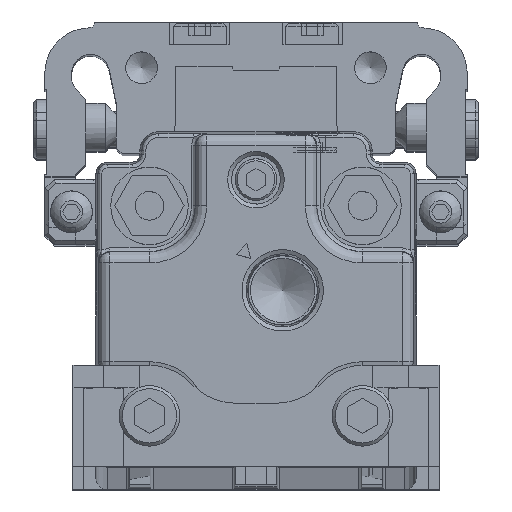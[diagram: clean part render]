
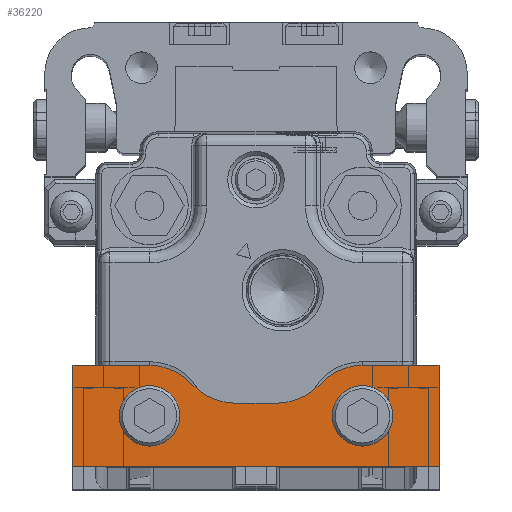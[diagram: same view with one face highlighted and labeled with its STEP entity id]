
A CAD part, top view. The second image highlights one B-rep face of the part: STEP entity #36220.
In plain terms, the highlighted planar face has unit normal (0, 0, 1).
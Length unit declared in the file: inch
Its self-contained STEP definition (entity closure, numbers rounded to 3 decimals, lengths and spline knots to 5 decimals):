
#902 = FACE_OUTER_BOUND ( 'NONE', #12878, .T. ) ;
#923 = LINE ( 'NONE', #12860, #24601 ) ;
#1010 = ORIENTED_EDGE ( 'NONE', *, *, #17296, .T. ) ;
#1210 = VECTOR ( 'NONE', #20337, 39.37008 ) ;
#1715 = LINE ( 'NONE', #29400, #1210 ) ;
#2411 = EDGE_LOOP ( 'NONE', ( #25648 ) ) ;
#2687 = VECTOR ( 'NONE', #23191, 39.37008 ) ;
#2891 = ORIENTED_EDGE ( 'NONE', *, *, #11499, .T. ) ;
#3007 = AXIS2_PLACEMENT_3D ( 'NONE', #25740, #21994, #19640 ) ;
#3736 = ORIENTED_EDGE ( 'NONE', *, *, #19722, .T. ) ;
#3830 = FACE_BOUND ( 'NONE', #2411, .T. ) ;
#3899 = CARTESIAN_POINT ( 'NONE',  ( -0.94488, 0.5248, 0.5 ) ) ;
#4081 = DIRECTION ( 'NONE',  ( -1., 0., 0. ) ) ;
#4363 = CIRCLE ( 'NONE', #30715, 0.3125 ) ;
#4406 = LINE ( 'NONE', #36656, #34452 ) ;
#4855 = ORIENTED_EDGE ( 'NONE', *, *, #34905, .T. ) ;
#4888 = CIRCLE ( 'NONE', #3007, 0.15625 ) ;
#5229 = VERTEX_POINT ( 'NONE', #7597 ) ;
#6222 = AXIS2_PLACEMENT_3D ( 'NONE', #8276, #26136, #8842 ) ;
#6606 = DIRECTION ( 'NONE',  ( 1., 0., 0. ) ) ;
#6795 = CARTESIAN_POINT ( 'NONE',  ( -0.3937, 0.32795, 0.5 ) ) ;
#7433 = DIRECTION ( 'NONE',  ( 0., 0., -1. ) ) ;
#7597 = CARTESIAN_POINT ( 'NONE',  ( -0.5587, 0.5248, 0.5 ) ) ;
#8005 = CARTESIAN_POINT ( 'NONE',  ( -0.94488, 0., 0.5 ) ) ;
#8276 = CARTESIAN_POINT ( 'NONE',  ( 0.10339, 0.64045, 0.5 ) ) ;
#8842 = DIRECTION ( 'NONE',  ( -1., 0., 0. ) ) ;
#9555 = VECTOR ( 'NONE', #6606, 39.37008 ) ;
#9929 = DIRECTION ( 'NONE',  ( -1., 0., 0. ) ) ;
#9964 = CIRCLE ( 'NONE', #6222, 0.3125 ) ;
#10109 = CIRCLE ( 'NONE', #32121, 0.3125 ) ;
#10809 = VECTOR ( 'NONE', #36849, 39.37008 ) ;
#11499 = EDGE_CURVE ( 'NONE', #16122, #33743, #19647, .T. ) ;
#12113 = CARTESIAN_POINT ( 'NONE',  ( -0.33105, 0.42638, 0.5 ) ) ;
#12222 = ORIENTED_EDGE ( 'NONE', *, *, #36746, .T. ) ;
#12308 = CARTESIAN_POINT ( 'NONE',  ( -0.55, 0.41865, 0.5 ) ) ;
#12860 = CARTESIAN_POINT ( 'NONE',  ( -0.94488, 0.5248, 0.5 ) ) ;
#12878 = EDGE_LOOP ( 'NONE', ( #2891, #30373, #37250, #32249, #27456, #26866, #12222, #38474, #4855, #3736 ) ) ;
#13168 = DIRECTION ( 'NONE',  ( 0., 0., 1. ) ) ;
#14345 = DIRECTION ( 'NONE',  ( -1., 0., 0. ) ) ;
#14497 = CARTESIAN_POINT ( 'NONE',  ( -0.55, 0.2624, 0.5 ) ) ;
#15167 = VERTEX_POINT ( 'NONE', #19479 ) ;
#15817 = VERTEX_POINT ( 'NONE', #27047 ) ;
#16043 = DIRECTION ( 'NONE',  ( -1., 0., 0. ) ) ;
#16122 = VERTEX_POINT ( 'NONE', #35877 ) ;
#17296 = EDGE_CURVE ( 'NONE', #15817, #15817, #4888, .T. ) ;
#17446 = CIRCLE ( 'NONE', #30638, 0.15625 ) ;
#17968 = EDGE_CURVE ( 'NONE', #33166, #33166, #17446, .T. ) ;
#18239 = EDGE_CURVE ( 'NONE', #15167, #24406, #1715, .T. ) ;
#18978 = CARTESIAN_POINT ( 'NONE',  ( -0.5587, 0.2123, 0.5 ) ) ;
#19479 = CARTESIAN_POINT ( 'NONE',  ( -0.94488, 0.5248, 0.5 ) ) ;
#19507 = CARTESIAN_POINT ( 'NONE',  ( -0.94488, 0., 0.5 ) ) ;
#19569 = VERTEX_POINT ( 'NONE', #26243 ) ;
#19640 = DIRECTION ( 'NONE',  ( -1., 0., 0. ) ) ;
#19647 = LINE ( 'NONE', #34624, #2687 ) ;
#19722 = EDGE_CURVE ( 'NONE', #33850, #16122, #4406, .T. ) ;
#20337 = DIRECTION ( 'NONE',  ( 0., -1., 0. ) ) ;
#20809 = CARTESIAN_POINT ( 'NONE',  ( 0.94488, 0., 0.5 ) ) ;
#20928 = EDGE_CURVE ( 'NONE', #33743, #24537, #10109, .T. ) ;
#21171 = EDGE_CURVE ( 'NONE', #24537, #26366, #9964, .T. ) ;
#21994 = DIRECTION ( 'NONE',  ( 0., 0., -1. ) ) ;
#22793 = DIRECTION ( 'NONE',  ( -1., 0., 0. ) ) ;
#23191 = DIRECTION ( 'NONE',  ( -1., 0., 0. ) ) ;
#24406 = VERTEX_POINT ( 'NONE', #8005 ) ;
#24537 = VERTEX_POINT ( 'NONE', #33519 ) ;
#24601 = VECTOR ( 'NONE', #9929, 39.37008 ) ;
#24820 = PLANE ( 'NONE',  #28355 ) ;
#24948 = CARTESIAN_POINT ( 'NONE',  ( 0.5587, 0.2123, 0.5 ) ) ;
#25237 = LINE ( 'NONE', #6795, #9555 ) ;
#25542 = DIRECTION ( 'NONE',  ( 0., 0., -1. ) ) ;
#25648 = ORIENTED_EDGE ( 'NONE', *, *, #17968, .T. ) ;
#25740 = CARTESIAN_POINT ( 'NONE',  ( 0.55, 0.2624, 0.5 ) ) ;
#25937 = CARTESIAN_POINT ( 'NONE',  ( -0.10339, 0.64045, 0.5 ) ) ;
#26136 = DIRECTION ( 'NONE',  ( 0., 0., -1. ) ) ;
#26228 = CIRCLE ( 'NONE', #36288, 0.3125 ) ;
#26243 = CARTESIAN_POINT ( 'NONE',  ( -0.10339, 0.32795, 0.5 ) ) ;
#26366 = VERTEX_POINT ( 'NONE', #26981 ) ;
#26473 = DIRECTION ( 'NONE',  ( 0., 0., -1. ) ) ;
#26866 = ORIENTED_EDGE ( 'NONE', *, *, #32065, .T. ) ;
#26981 = CARTESIAN_POINT ( 'NONE',  ( 0.10339, 0.32795, 0.5 ) ) ;
#27047 = CARTESIAN_POINT ( 'NONE',  ( 0.39375, 0.2624, 0.5 ) ) ;
#27456 = ORIENTED_EDGE ( 'NONE', *, *, #28248, .T. ) ;
#27506 = VERTEX_POINT ( 'NONE', #12113 ) ;
#27778 = FACE_BOUND ( 'NONE', #33428, .T. ) ;
#28168 = DIRECTION ( 'NONE',  ( 0., 1., 0. ) ) ;
#28248 = EDGE_CURVE ( 'NONE', #19569, #27506, #26228, .T. ) ;
#28355 = AXIS2_PLACEMENT_3D ( 'NONE', #3899, #7433, #16043 ) ;
#29400 = CARTESIAN_POINT ( 'NONE',  ( -0.94488, 0., 0.5 ) ) ;
#30373 = ORIENTED_EDGE ( 'NONE', *, *, #20928, .T. ) ;
#30638 = AXIS2_PLACEMENT_3D ( 'NONE', #14497, #26473, #35549 ) ;
#30715 = AXIS2_PLACEMENT_3D ( 'NONE', #18978, #30998, #4081 ) ;
#30928 = LINE ( 'NONE', #19507, #10809 ) ;
#30998 = DIRECTION ( 'NONE',  ( 0., 0., 1. ) ) ;
#32065 = EDGE_CURVE ( 'NONE', #27506, #5229, #4363, .T. ) ;
#32081 = CARTESIAN_POINT ( 'NONE',  ( 0.5587, 0.5248, 0.5 ) ) ;
#32121 = AXIS2_PLACEMENT_3D ( 'NONE', #24948, #13168, #22793 ) ;
#32249 = ORIENTED_EDGE ( 'NONE', *, *, #36596, .F. ) ;
#33166 = VERTEX_POINT ( 'NONE', #12308 ) ;
#33428 = EDGE_LOOP ( 'NONE', ( #1010 ) ) ;
#33519 = CARTESIAN_POINT ( 'NONE',  ( 0.33105, 0.42638, 0.5 ) ) ;
#33743 = VERTEX_POINT ( 'NONE', #32081 ) ;
#33850 = VERTEX_POINT ( 'NONE', #20809 ) ;
#34452 = VECTOR ( 'NONE', #28168, 39.37008 ) ;
#34624 = CARTESIAN_POINT ( 'NONE',  ( -0.94488, 0.5248, 0.5 ) ) ;
#34905 = EDGE_CURVE ( 'NONE', #24406, #33850, #30928, .T. ) ;
#35549 = DIRECTION ( 'NONE',  ( 0., 1., 0. ) ) ;
#35877 = CARTESIAN_POINT ( 'NONE',  ( 0.94488, 0.5248, 0.5 ) ) ;
#36220 = ADVANCED_FACE ( 'NONE', ( #3830, #27778, #902 ), #24820, .F. ) ;
#36288 = AXIS2_PLACEMENT_3D ( 'NONE', #25937, #25542, #14345 ) ;
#36596 = EDGE_CURVE ( 'NONE', #19569, #26366, #25237, .T. ) ;
#36656 = CARTESIAN_POINT ( 'NONE',  ( 0.94488, 0., 0.5 ) ) ;
#36746 = EDGE_CURVE ( 'NONE', #5229, #15167, #923, .T. ) ;
#36849 = DIRECTION ( 'NONE',  ( 1., 0., 0. ) ) ;
#37250 = ORIENTED_EDGE ( 'NONE', *, *, #21171, .T. ) ;
#38474 = ORIENTED_EDGE ( 'NONE', *, *, #18239, .T. ) ;
